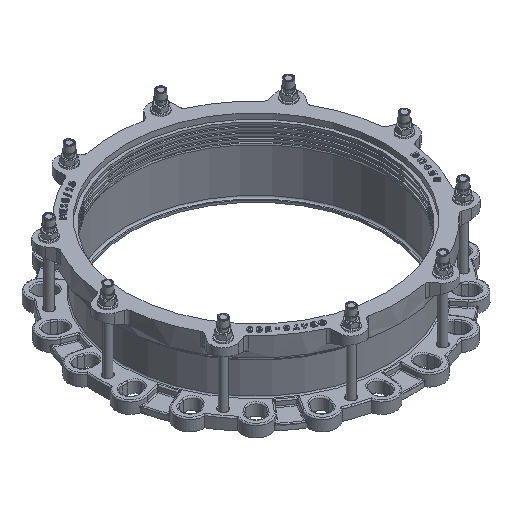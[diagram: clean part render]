
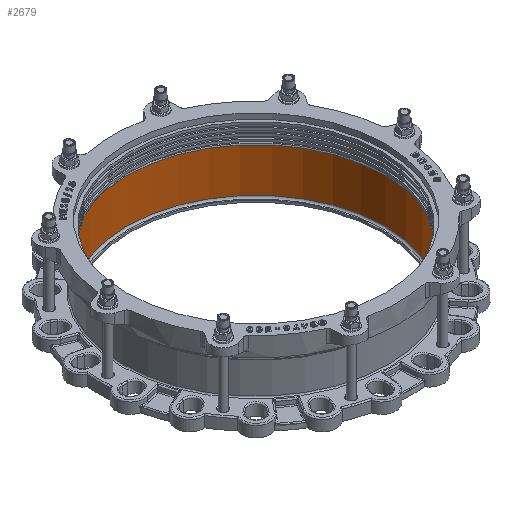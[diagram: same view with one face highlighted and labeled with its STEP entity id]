
A CAD part, isometric view. The second image highlights one B-rep face of the part: STEP entity #2679.
In plain terms, the highlighted cylindrical face has radius 250 mm (diameter 500 mm), a full revolution.
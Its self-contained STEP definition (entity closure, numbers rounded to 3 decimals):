
#2679=ADVANCED_FACE('',(#18692,#18694),#18696,.F.);
#18692=FACE_OUTER_BOUND('',#18693,.T.);
#18693=EDGE_LOOP('',(#26924));
#18694=FACE_OUTER_BOUND('',#18695,.T.);
#18695=EDGE_LOOP('',(#26925));
#18696=CYLINDRICAL_SURFACE('',#18697,250.);
#18697=AXIS2_PLACEMENT_3D('',#18698,#18699,#18700);
#18698=CARTESIAN_POINT('',(0.,0.,4.));
#18699=DIRECTION('',(0.,0.,1.));
#18700=DIRECTION('',(-1.,0.,0.));
#26924=ORIENTED_EDGE('',*,*,#32968,.F.);
#26925=ORIENTED_EDGE('',*,*,#32967,.T.);
#32967=EDGE_CURVE('',#37663,#37663,#37664,.F.);
#32968=EDGE_CURVE('',#37665,#37665,#37666,.T.);
#37663=VERTEX_POINT('',#55448);
#37664=CIRCLE('',#55449,250.);
#37665=VERTEX_POINT('',#55453);
#37666=CIRCLE('',#55454,250.);
#55448=CARTESIAN_POINT('',(0.,250.,7.5));
#55449=AXIS2_PLACEMENT_3D('',#55450,#55451,#55452);
#55450=CARTESIAN_POINT('',(0.,0.,7.5));
#55451=DIRECTION('',(0.,0.,1.));
#55452=DIRECTION('',(0.,1.,0.));
#55453=CARTESIAN_POINT('',(0.,250.,92.25));
#55454=AXIS2_PLACEMENT_3D('',#55455,#55456,#55457);
#55455=CARTESIAN_POINT('',(0.,0.,92.25));
#55456=DIRECTION('',(0.,0.,-1.));
#55457=DIRECTION('',(0.,1.,0.));
